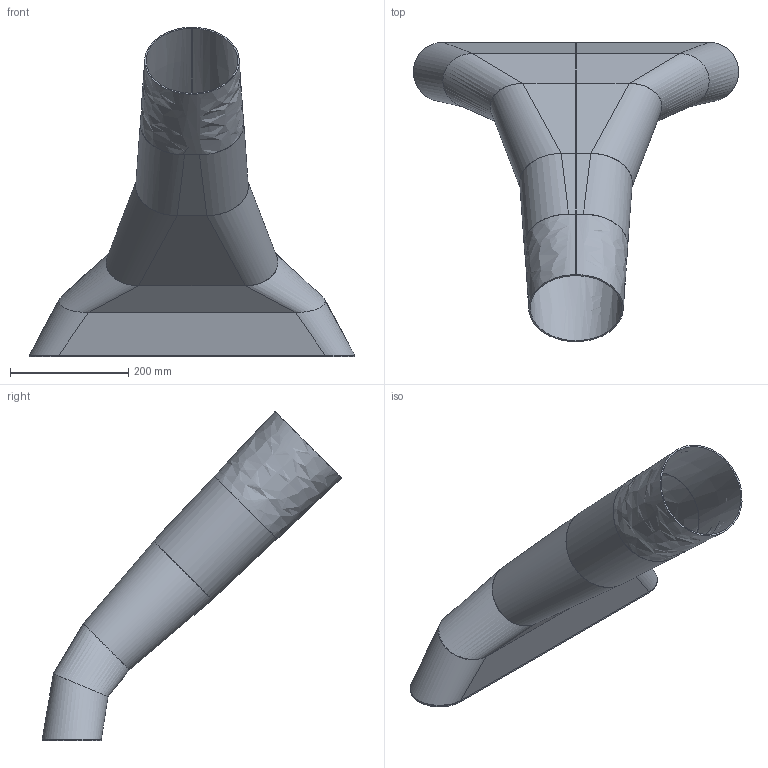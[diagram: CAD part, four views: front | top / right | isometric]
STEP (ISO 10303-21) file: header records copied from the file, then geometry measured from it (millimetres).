
FILE_DESCRIPTION (( 'STEP AP203' ), '1' );
FILE_NAME ('Krümmer.STEP', '2010-03-15T16:18:55', ( '' ), ( '' ), 'SwSTEP 2.0', 'SolidWorks 2009', '' );
FILE_SCHEMA (( 'CONFIG_CONTROL_DESIGN' ));
Length unit declared in the file: millimetre
Products named in the file (7): Krümmer2; Krümmer; Krümmer1; Krümmer3; Krümmer4; Krümmer5; Krümmer6
Assembly tree (6 placements, depth 2):
  Krümmer
    Krümmer4
    Krümmer6
    Krümmer5
    Krümmer3
    Krümmer1
    Krümmer2
Bounding box: 550 x 506.52 x 556.55 mm (x, y, z)
Volume: 2174821.6 mm3; surface area: 979132.1 mm2
Topology: 6 solids, 6 shells, 109 faces, 227 edges, 130 vertices
Faces by surface type: plane 60, bspline 38, cylinder 11
Entity records: 8895 total; most frequent: CARTESIAN_POINT 6140, ORIENTED_EDGE 454, DIRECTION 317, EDGE_CURVE 227, VERTEX_POINT 130, EDGE_LOOP 117, LINE 113, VECTOR 113
